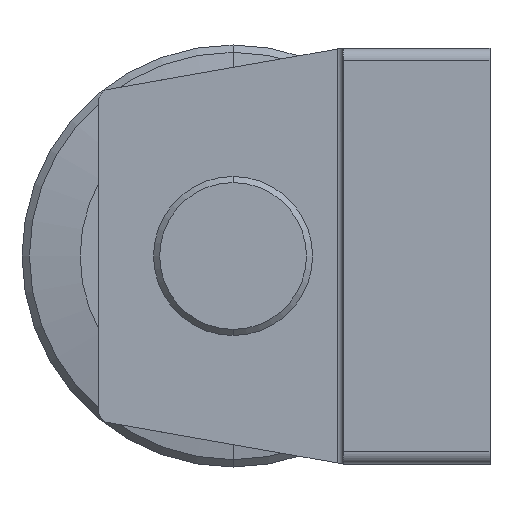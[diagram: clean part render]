
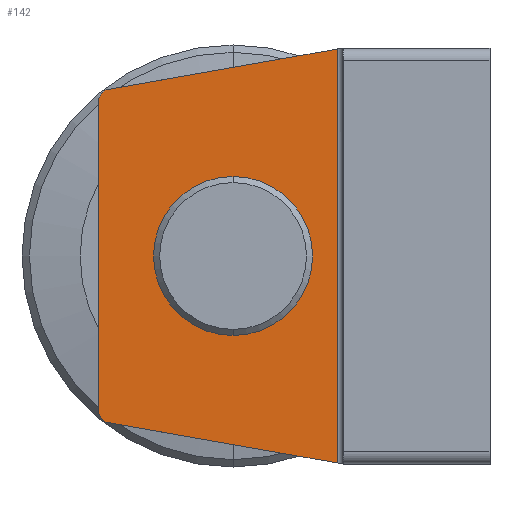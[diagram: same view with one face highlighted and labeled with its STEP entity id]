
A CAD part, left-side view. The second image highlights one B-rep face of the part: STEP entity #142.
In plain terms, the highlighted planar face has unit normal (-1, 0, 0).
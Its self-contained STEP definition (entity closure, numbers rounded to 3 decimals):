
#57 = AXIS2_PLACEMENT_3D ( 'NONE', #770, #565, #2112 ) ;
#142 = ADVANCED_FACE ( 'NONE', ( #2134, #861 ), #542, .F. ) ;
#158 = EDGE_CURVE ( 'NONE', #1201, #1635, #2246, .T. ) ;
#177 = CARTESIAN_POINT ( 'NONE',  ( -24., 64., 34. ) ) ;
#243 = ORIENTED_EDGE ( 'NONE', *, *, #489, .T. ) ;
#268 = CARTESIAN_POINT ( 'NONE',  ( -24., 25., -33.824 ) ) ;
#341 = EDGE_CURVE ( 'NONE', #1748, #1944, #2124, .T. ) ;
#443 = EDGE_LOOP ( 'NONE', ( #243, #1415 ) ) ;
#467 = CIRCLE ( 'NONE', #57, 13. ) ;
#474 = CARTESIAN_POINT ( 'NONE',  ( -24., 64., 25.269 ) ) ;
#489 = EDGE_CURVE ( 'NONE', #1180, #1060, #1263, .T. ) ;
#490 = CARTESIAN_POINT ( 'NONE',  ( -24., 42., 13. ) ) ;
#496 = DIRECTION ( 'NONE',  ( -1., 0., 0. ) ) ;
#542 = PLANE ( 'NONE',  #2278 ) ;
#565 = DIRECTION ( 'NONE',  ( 1., 0., 0. ) ) ;
#671 = EDGE_CURVE ( 'NONE', #1154, #1748, #1667, .T. ) ;
#707 = DIRECTION ( 'NONE',  ( -1., 0., 0. ) ) ;
#740 = CARTESIAN_POINT ( 'NONE',  ( -24., 64., -25.269 ) ) ;
#745 = CARTESIAN_POINT ( 'NONE',  ( -24., 42., 0. ) ) ;
#770 = CARTESIAN_POINT ( 'NONE',  ( -24., 42., 0. ) ) ;
#825 = DIRECTION ( 'NONE',  ( 0., 1., 0. ) ) ;
#861 = FACE_OUTER_BOUND ( 'NONE', #1703, .T. ) ;
#872 = ORIENTED_EDGE ( 'NONE', *, *, #158, .T. ) ;
#984 = DIRECTION ( 'NONE',  ( 1., 0., 0. ) ) ;
#1060 = VERTEX_POINT ( 'NONE', #1573 ) ;
#1154 = VERTEX_POINT ( 'NONE', #740 ) ;
#1166 = ORIENTED_EDGE ( 'NONE', *, *, #1219, .T. ) ;
#1180 = VERTEX_POINT ( 'NONE', #490 ) ;
#1185 = LINE ( 'NONE', #1803, #1214 ) ;
#1195 = AXIS2_PLACEMENT_3D ( 'NONE', #745, #1736, #825 ) ;
#1201 = VERTEX_POINT ( 'NONE', #1581 ) ;
#1214 = VECTOR ( 'NONE', #2119, 1000. ) ;
#1219 = EDGE_CURVE ( 'NONE', #1323, #1201, #2132, .T. ) ;
#1240 = LINE ( 'NONE', #177, #1986 ) ;
#1243 = VECTOR ( 'NONE', #2396, 1000. ) ;
#1263 = CIRCLE ( 'NONE', #1195, 13. ) ;
#1271 = AXIS2_PLACEMENT_3D ( 'NONE', #1545, #496, #1392 ) ;
#1283 = DIRECTION ( 'NONE',  ( 0., 1., 0. ) ) ;
#1323 = VERTEX_POINT ( 'NONE', #2405 ) ;
#1334 = EDGE_CURVE ( 'NONE', #1635, #1154, #1240, .T. ) ;
#1392 = DIRECTION ( 'NONE',  ( 0., 1., 0. ) ) ;
#1415 = ORIENTED_EDGE ( 'NONE', *, *, #2009, .T. ) ;
#1535 = ORIENTED_EDGE ( 'NONE', *, *, #1334, .T. ) ;
#1545 = CARTESIAN_POINT ( 'NONE',  ( -24., 62., 25.269 ) ) ;
#1550 = DIRECTION ( 'NONE',  ( 0., 0., -1. ) ) ;
#1551 = ORIENTED_EDGE ( 'NONE', *, *, #2105, .F. ) ;
#1573 = CARTESIAN_POINT ( 'NONE',  ( -24., 42., -13. ) ) ;
#1581 = CARTESIAN_POINT ( 'NONE',  ( -24., 62.347, 27.238 ) ) ;
#1596 = AXIS2_PLACEMENT_3D ( 'NONE', #1947, #707, #1283 ) ;
#1601 = ORIENTED_EDGE ( 'NONE', *, *, #341, .T. ) ;
#1635 = VERTEX_POINT ( 'NONE', #474 ) ;
#1667 = CIRCLE ( 'NONE', #1596, 2. ) ;
#1703 = EDGE_LOOP ( 'NONE', ( #1166, #872, #1535, #2019, #1601, #1551 ) ) ;
#1736 = DIRECTION ( 'NONE',  ( 1., 0., 0. ) ) ;
#1748 = VERTEX_POINT ( 'NONE', #2041 ) ;
#1777 = CARTESIAN_POINT ( 'NONE',  ( -24., 24.97, 33.829 ) ) ;
#1803 = CARTESIAN_POINT ( 'NONE',  ( -24., 25., 34. ) ) ;
#1852 = DIRECTION ( 'NONE',  ( 0., -0.985, -0.174 ) ) ;
#1858 = VECTOR ( 'NONE', #1852, 1000. ) ;
#1900 = CARTESIAN_POINT ( 'NONE',  ( -24., 25., 34. ) ) ;
#1944 = VERTEX_POINT ( 'NONE', #268 ) ;
#1947 = CARTESIAN_POINT ( 'NONE',  ( -24., 62., -25.269 ) ) ;
#1986 = VECTOR ( 'NONE', #1550, 1000. ) ;
#2009 = EDGE_CURVE ( 'NONE', #1060, #1180, #467, .T. ) ;
#2019 = ORIENTED_EDGE ( 'NONE', *, *, #671, .T. ) ;
#2041 = CARTESIAN_POINT ( 'NONE',  ( -24., 62.347, -27.238 ) ) ;
#2105 = EDGE_CURVE ( 'NONE', #1323, #1944, #1185, .T. ) ;
#2112 = DIRECTION ( 'NONE',  ( 0., 1., 0. ) ) ;
#2119 = DIRECTION ( 'NONE',  ( 0., 0., -1. ) ) ;
#2124 = LINE ( 'NONE', #2243, #1858 ) ;
#2132 = LINE ( 'NONE', #1777, #1243 ) ;
#2134 = FACE_BOUND ( 'NONE', #443, .T. ) ;
#2206 = DIRECTION ( 'NONE',  ( 0., 1., 0. ) ) ;
#2243 = CARTESIAN_POINT ( 'NONE',  ( -24., 36.599, -31.779 ) ) ;
#2246 = CIRCLE ( 'NONE', #1271, 2. ) ;
#2278 = AXIS2_PLACEMENT_3D ( 'NONE', #1900, #984, #2206 ) ;
#2396 = DIRECTION ( 'NONE',  ( 0., 0.985, -0.174 ) ) ;
#2405 = CARTESIAN_POINT ( 'NONE',  ( -24., 25., 33.824 ) ) ;
